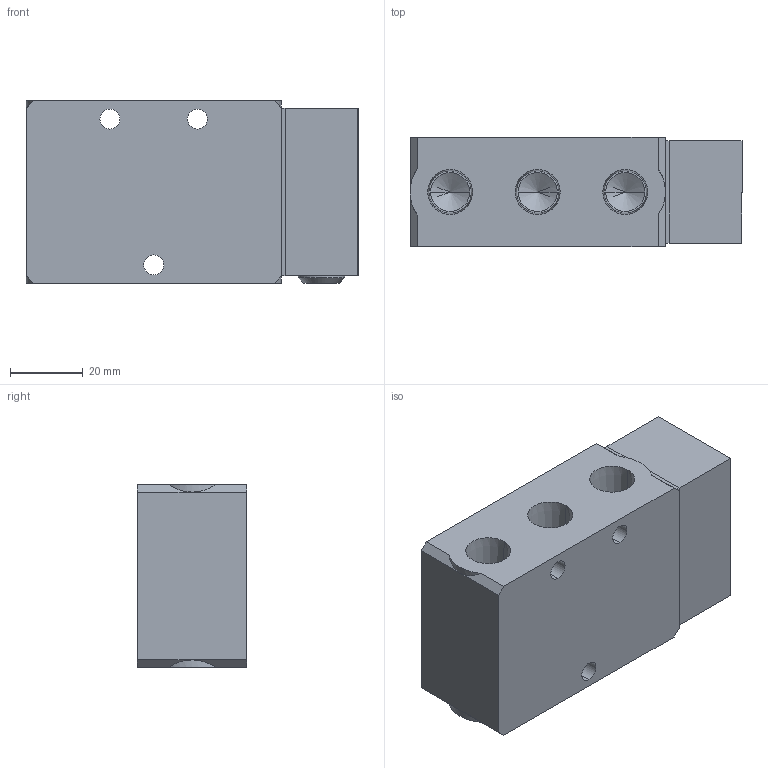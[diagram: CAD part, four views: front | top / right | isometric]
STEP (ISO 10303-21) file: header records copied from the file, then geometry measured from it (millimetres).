
FILE_DESCRIPTION (( 'STEP AP203' ), '1' );
FILE_NAME ('VS2406-02.STEP', '2016-01-13T18:40:29', ( '' ), ( '' ), 'SwSTEP 2.0', 'SolidWorks 2014', '' );
FILE_SCHEMA (( 'CONFIG_CONTROL_DESIGN' ));
Length unit declared in the file: millimetre
Products named in the file (7): 止付1-4; VS2306-4; VS2306-2; M4; VS2406-02; VS2406-1=02; VS2306-MARK
Assembly tree (9 placements, depth 2):
  VS2406-02
    VS2306-2
    M4  x4
    止付1-4
    VS2306-MARK
    VS2406-1=02
    VS2306-4
Bounding box: 91 x 30.1 x 50 mm (x, y, z)
Volume: 116870 mm3; surface area: 30634.5 mm2
Topology: 16 solids, 16 shells, 507 faces, 1261 edges, 802 vertices
Faces by surface type: plane 299, cylinder 73, cone 70, bspline 39, torus 16, sphere 10
Entity records: 14566 total; most frequent: CARTESIAN_POINT 4290, ORIENTED_EDGE 1978, DIRECTION 1849, EDGE_CURVE 989, LINE 677, VECTOR 677, VERTEX_POINT 649, AXIS2_PLACEMENT_3D 586
